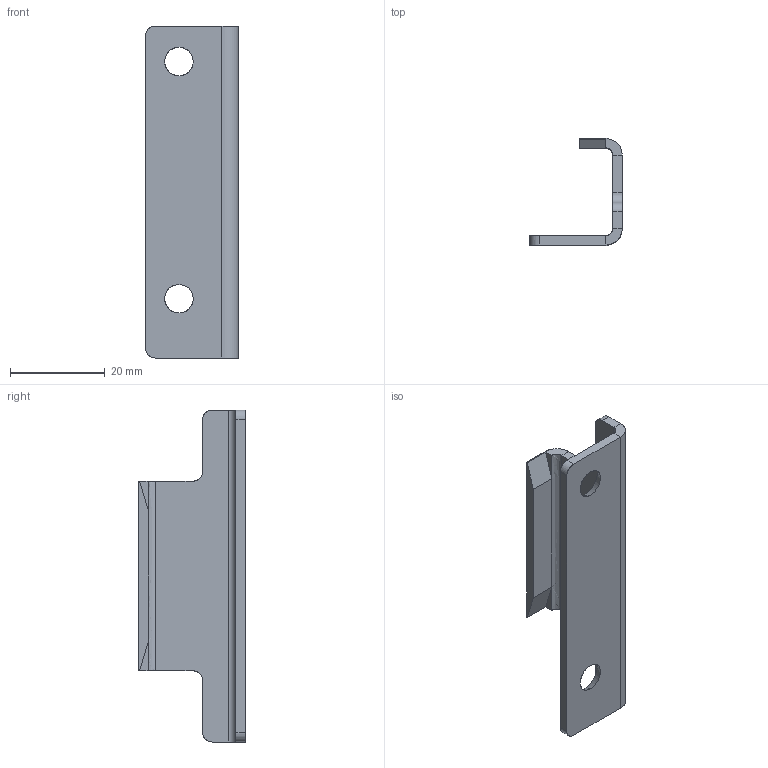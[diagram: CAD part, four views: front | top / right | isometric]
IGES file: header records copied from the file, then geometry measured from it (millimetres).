
Start section: SolidWorks IGES file using analytic representation for surfaces
Global section: file name: F:\GVD ÝÞ TAKÝBÝ\sac kalýplarý\sac kalýp parçalarý\öncelikli yapýlacak\kesinleþeler\PMX Kilit karþýlýðý.IGS; native system: SolidWorks 2010; preprocessor: SolidWorks 2010; author: Tamer; date: 110118.105026; units: millimetre
Bounding box: 19.5 x 22.5 x 70 mm (x, y, z)
Surface area: 5481.5 mm2 (no closed solid volume)
Topology: 0 solids, 0 shells, 40 faces, 452 edges, 452 vertices
Faces by surface type: bspline 26, revolution 14
